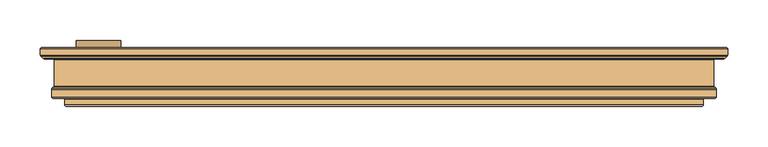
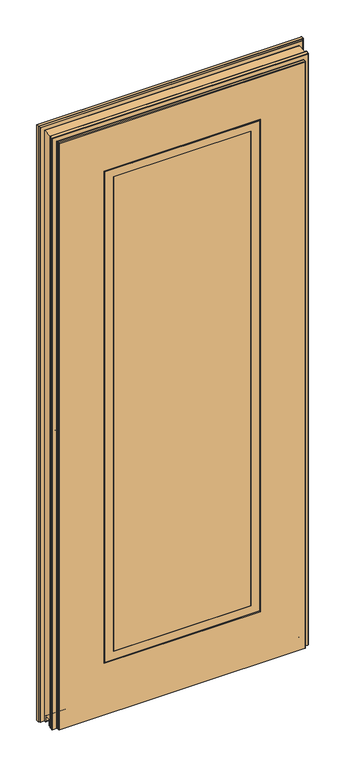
"""IFC4 building model written with IfcOpenShell, lengths in millimetres: door geometry, Peneder_HIGHLINEflat zero_1-flügelig_V2019 : Zargentyp - 07 - Stumpf FP V."""

from ifc_helpers import new_model, si_unit, frame, origin, place, context, project, spatial, polyline, circle_curve, ellipse_curve, outline, extrude, faceted_brep, source, transform, mapped, element, save
from ifc_brep_helpers import plane_surface, cylinder_surface, revolved_surface, advanced_brep


def door_935f460a(model_context):
    return source(origin(), model_context, "Body", "SolidModel", [
        advanced_brep(
        [(-325.5, 84.0, 1050.0), (-325.5, 75.0, 1050.0), (-380.5, 75.0, 1050.0), (-380.5, 84.0, 1050.0), (-353.0, 84.0, 1050.0), (-353.0, 75.0, 1050.0)],
        [
            (0, 1),
            (1, 2, circle_curve(frame((-353.0, 75.0, 1050.0), z_axis=(0.0, 1.0, 0.0), x_axis=(-1.0, 0.0, 0.0)), 27.5)),
            (2, 3),
            (3, 0, circle_curve(frame((-353.0, 84.0, 1050.0), z_axis=(0.0, -1.0, 0.0), x_axis=(-1.0, 0.0, 0.0)), 27.5)),
            (2, 1, circle_curve(frame((-353.0, 75.0, 1050.0), z_axis=(0.0, 1.0, 0.0), x_axis=(-1.0, 0.0, 0.0)), 27.5)),
            (0, 3, circle_curve(frame((-353.0, 84.0, 1050.0), z_axis=(0.0, -1.0, 0.0), x_axis=(-1.0, 0.0, 0.0)), 27.5)),
            (4, 0),
            (3, 4),
            (1, 5),
            (5, 2),
        ],
        [
            cylinder_surface(frame((-353.0, 57.2392865, 1050.0), z_axis=(0.0, 1.0, 0.0), x_axis=(-1.0, 0.0, 0.0)), 27.5),
            plane_surface(frame((-353.0, 84.0, 1050.0), z_axis=(0.0, 1.0, 0.0), x_axis=(-1.0, 0.0, 0.0))),
            plane_surface(frame((-353.0, 75.0, 1050.0), z_axis=(0.0, -1.0, 0.0), x_axis=(-1.0, 0.0, 0.0))),
        ],
        [
            (0, [[1, 2, 3, 4]]),
            (0, [[-3, 5, -1, 6]]),
            (1, [[7, -4, 8]]),
            (1, [[-8, -6, -7]]),
            (2, [[9, 10, -2]]),
            (2, [[-10, -9, -5]]),
        ],
    ),
        advanced_brep(
        [(-325.5, 84.0, 958.0), (-325.5, 75.0, 958.0), (-380.5, 75.0, 958.0), (-380.5, 84.0, 958.0), (-358.0, 84.0, 958.0), (-358.0, 84.0, 945.8645067), (-348.0, 84.0, 945.8645067), (-348.0, 84.0, 958.0), (-348.0, 84.0, 960.8645067), (-358.0, 84.0, 960.8645067), (-353.0, 75.0, 958.0), (-358.0, 78.0, 945.8645067), (-358.0, 78.0, 960.8645067), (-348.0, 78.0, 960.8645067), (-348.0, 78.0, 945.8645067)],
        [
            (0, 1),
            (1, 2, circle_curve(frame((-353.0, 75.0, 958.0), z_axis=(0.0, 1.0, 0.0), x_axis=(-1.0, 0.0, 0.0)), 27.5)),
            (2, 3),
            (3, 0, circle_curve(frame((-353.0, 84.0, 958.0), z_axis=(0.0, -1.0, 0.0), x_axis=(-1.0, 0.0, 0.0)), 27.5)),
            (2, 1, circle_curve(frame((-353.0, 75.0, 958.0), z_axis=(0.0, 1.0, 0.0), x_axis=(-1.0, 0.0, 0.0)), 27.5)),
            (0, 3, circle_curve(frame((-353.0, 84.0, 958.0), z_axis=(0.0, -1.0, 0.0), x_axis=(-1.0, 0.0, 0.0)), 27.5)),
            (3, 4),
            (4, 5),
            (5, 6, circle_curve(frame((-353.0, 84.0, 945.8645067), z_axis=(0.0, -1.0, 0.0), x_axis=(-1.0, 0.0, 0.0)), 5.0)),
            (6, 7),
            (7, 0),
            (7, 8),
            (8, 9, circle_curve(frame((-353.0, 84.0, 967.690169), z_axis=(0.0, -1.0, 0.0), x_axis=(-1.0, 0.0, 0.0)), 8.4610677)),
            (9, 4),
            (1, 10),
            (10, 2),
            (11, 12),
            (12, 13, circle_curve(frame((-353.0, 78.0, 967.690169), z_axis=(0.0, 1.0, 0.0), x_axis=(-1.0, 0.0, 0.0)), 8.4610677)),
            (13, 14),
            (14, 11, circle_curve(frame((-353.0, 78.0, 945.8645067), z_axis=(0.0, 1.0, 0.0), x_axis=(-1.0, 0.0, 0.0)), 5.0)),
            (14, 6),
            (5, 11),
            (13, 8),
            (12, 9),
        ],
        [
            cylinder_surface(frame((-353.0, 67.8167977, 958.0), z_axis=(0.0, 1.0, 0.0), x_axis=(-1.0, 0.0, 0.0)), 27.5),
            plane_surface(frame((-353.0, 84.0, 958.0), z_axis=(0.0, 1.0, 0.0), x_axis=(-1.0, 0.0, 0.0))),
            plane_surface(frame((-353.0, 75.0, 958.0), z_axis=(0.0, -1.0, 0.0), x_axis=(-1.0, 0.0, 0.0))),
            plane_surface(frame((-358.0, 78.0, 960.8645067), z_axis=(0.0, 1.0, 0.0), x_axis=(0.0, 0.0, 1.0))),
            revolved_surface(polyline([(-358.0, 78.0, 945.8645067), (-358.0, 84.0, 945.8645067)]), (-353.0, 88.0, 945.8645067), (0.0, -1.0, 0.0)),
            plane_surface(frame((-348.0, 78.0, 960.8645067), z_axis=(-1.0, 0.0, 0.0), x_axis=(0.0, 1.0, 0.0))),
            revolved_surface(polyline([(-361.4610677, 78.0, 967.690169), (-361.4610677, 84.0, 967.690169)]), (-353.0, 88.0, 967.690169), (0.0, -1.0, 0.0)),
            plane_surface(frame((-358.0, 78.0, 945.8645067), z_axis=(1.0, 0.0, 0.0), x_axis=(0.0, 1.0, 0.0))),
        ],
        [
            (0, [[1, 2, 3, 4]]),
            (0, [[5, -1, 6, -3]]),
            (1, [[7, 8, 9, 10, 11, -4]]),
            (1, [[-11, 12, 13, 14, -7, -6]]),
            (2, [[15, 16, -2]]),
            (2, [[-16, -15, -5]]),
            (3, [[17, 18, 19, 20]]),
            (4, [[21, -9, 22, -20]]),
            (5, [[23, -12, -10, -21, -19]]),
            (6, [[24, -13, -23, -18]]),
            (7, [[-22, -8, -14, -24, -17]]),
        ],
    ),
        faceted_brep([(220.0, 2.0, 215.0), (220.0, 75.0, 215.0), (-220.0, 75.0, 215.0), (-220.0, 2.0, 215.0), (-220.0, 75.0, 1820.0), (-220.0, 2.0, 1820.0), (-247.0, 75.0, 1847.0), (247.0, 75.0, 1847.0), (247.0, 75.0, 188.0), (-247.0, 75.0, 188.0), (220.0, 75.0, 1820.0), (-247.0, 2.0, 188.0), (247.0, 2.0, 188.0), (247.0, 2.0, 1847.0), (-247.0, 2.0, 1847.0), (220.0, 2.0, 1820.0), (247.0, 5.0, 188.0), (-247.0, 5.0, 188.0), (-247.0, 5.0, 1847.0), (-250.0, 5.0, 185.0), (250.0, 5.0, 185.0), (250.0, 5.0, 1850.0), (-250.0, 5.0, 1850.0), (247.0, 5.0, 1847.0), (250.0, 72.0, 185.0), (-250.0, 72.0, 185.0), (-250.0, 72.0, 1850.0), (250.0, 72.0, 1850.0), (-247.0, 72.0, 188.0), (247.0, 72.0, 188.0), (247.0, 72.0, 1847.0), (-247.0, 72.0, 1847.0)], [[[0, 1, 2, 3]], [[3, 2, 4, 5]], [[6, 7, 8, 9], [2, 1, 10, 4]], [[11, 12, 13, 14], [5, 15, 0, 3]], [[16, 12, 11, 17]], [[17, 11, 14, 18]], [[19, 20, 21, 22], [18, 23, 16, 17]], [[24, 20, 19, 25]], [[25, 19, 22, 26]], [[26, 27, 24, 25], [28, 29, 30, 31]], [[8, 29, 28, 9]], [[9, 28, 31, 6]], [[15, 10, 1, 0]], [[23, 13, 12, 16]], [[27, 21, 20, 24]], [[7, 30, 29, 8]], [[5, 4, 10, 15]], [[18, 14, 13, 23]], [[26, 22, 21, 27]], [[6, 31, 30, 7]]]),
        extrude(outline(polyline([(220.0, 2.0), (-220.0, 2.0), (-220.0, 75.0), (220.0, 75.0), (220.0, 2.0)])), frame((0.0, 0.0, 215.0), z_axis=(0.0, 0.0, 1.0), x_axis=(1.0, 0.0, 0.0)), (0.0, 0.0, 1.0), 1605.0),
        advanced_brep(
        [(393.0, 2.0, 10.0), (-393.0, 2.0, 10.0), (-395.0, 4.0, 10.0), (-395.0, 11.0, 10.0), (-396.0, 12.0, 10.0), (-409.0, 12.0, 10.0), (-411.0, 14.0, 10.0), (-411.0, 23.1715729, 10.0), (-410.4142136, 24.5857864, 10.0), (-408.2928932, 26.7071068, 10.0), (-408.0, 27.4142136, 10.0), (-408.0, 31.5, 10.0), (408.0, 31.5, 10.0), (408.0, 27.4142136, 10.0), (408.2928932, 26.7071068, 10.0), (410.4142136, 24.5857864, 10.0), (411.0, 23.1715729, 10.0), (411.0, 14.0, 10.0), (409.0, 12.0, 10.0), (396.0, 12.0, 10.0), (395.0, 11.0, 10.0), (395.0, 4.0, 10.0), (-425.0, 65.8284271, 10.0), (-425.0, 73.0, 10.0), (-423.0, 75.0, 10.0), (423.0, 75.0, 10.0), (425.0, 73.0, 10.0), (425.0, 65.8284271, 10.0), (424.4142136, 64.4142136, 10.0), (421.5857864, 61.5857864, 10.0), (420.1715729, 61.0, 10.0), (409.0, 61.0, 10.0), (408.0, 60.0, 10.0), (408.0, 56.5, 10.0), (-408.0, 56.5, 10.0), (-408.0, 60.0, 10.0), (-409.0, 61.0, 10.0), (-420.1715729, 61.0, 10.0), (-421.5857864, 61.5857864, 10.0), (-424.4142136, 64.4142136, 10.0), (393.0, 2.0, 1993.0), (-393.0, 2.0, 1993.0), (-250.0, 2.0, 1850.0), (250.0, 2.0, 1850.0), (250.0, 2.0, 185.0), (-250.0, 2.0, 185.0), (-395.0, 4.0, 1995.0), (-395.0, 11.0, 1995.0), (-396.0, 12.0, 1996.0), (396.0, 12.0, 1996.0), (409.0, 12.0, 2009.0), (-409.0, 12.0, 2009.0), (-411.0, 14.0, 2011.0), (-411.0, 23.1715729, 2011.0), (-410.4142136, 24.5857864, 2010.4142136), (-408.2928932, 26.7071068, 2008.2928932), (-408.0, 27.4142136, 2008.0), (-408.0, 60.0, 2008.0), (-408.0, 54.5, 12.0), (-408.0, 54.5, 29.5), (-408.0, 53.5, 30.5), (-408.0, 34.5, 30.5), (-408.0, 33.5, 29.5), (-408.0, 33.5, 12.0), (408.0, 33.5, 12.0), (408.0, 60.0, 2008.0), (408.0, 27.4142136, 2008.0), (408.0, 33.5, 29.5), (408.0, 34.5, 30.5), (408.0, 53.5, 30.5), (408.0, 54.5, 29.5), (408.0, 54.5, 12.0), (408.2928932, 26.7071068, 2008.2928932), (410.4142136, 24.5857864, 2010.4142136), (411.0, 23.1715729, 2011.0), (411.0, 14.0, 2011.0), (395.0, 11.0, 1995.0), (395.0, 4.0, 1995.0), (-425.0, 65.8284271, 2025.0), (-425.0, 73.0, 2025.0), (-423.0, 75.0, 2023.0), (423.0, 75.0, 2023.0), (250.0, 75.0, 1850.0), (-250.0, 75.0, 1850.0), (-250.0, 75.0, 185.0), (250.0, 75.0, 185.0), (425.0, 73.0, 2025.0), (425.0, 65.8284271, 2025.0), (424.4142136, 64.4142136, 2024.4142136), (421.5857864, 61.5857864, 2021.5857864), (420.1715729, 61.0, 2020.1715729), (-409.0, 61.0, 2009.0), (409.0, 61.0, 2009.0), (-420.1715729, 61.0, 2020.1715729), (-421.5857864, 61.5857864, 2021.5857864), (-424.4142136, 64.4142136, 2024.4142136)],
        [
            (0, 1),
            (1, 2, circle_curve(frame((-393.0, 4.0, 10.0), z_axis=(0.0, 0.0, -1.0), x_axis=(0.0, -1.0, 0.0)), 2.0)),
            (2, 3),
            (3, 4, circle_curve(frame((-396.0, 11.0, 10.0), z_axis=(0.0, 0.0, 1.0), x_axis=(1.0, 0.0, 0.0)), 1.0)),
            (4, 5),
            (5, 6, circle_curve(frame((-409.0, 14.0, 10.0), z_axis=(0.0, 0.0, -1.0), x_axis=(0.0, -1.0, 0.0)), 2.0)),
            (6, 7),
            (7, 8, circle_curve(frame((-409.0, 23.1715729, 10.0), z_axis=(0.0, 0.0, -1.0), x_axis=(-1.0, 0.0, 0.0)), 2.0)),
            (8, 9),
            (9, 10, circle_curve(frame((-409.0, 27.4142136, 10.0), z_axis=(0.0, 0.0, 1.0), x_axis=(0.7071067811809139, -0.7071067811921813, 0.0)), 1.0)),
            (10, 11),
            (11, 12),
            (12, 13),
            (13, 14, circle_curve(frame((409.0, 27.4142136, 10.0), z_axis=(0.0, 0.0, 1.0), x_axis=(-0.707106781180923, -0.7071067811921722, 0.0)), 1.0)),
            (14, 15),
            (15, 16, circle_curve(frame((409.0, 23.1715729, 10.0), z_axis=(0.0, 0.0, -1.0), x_axis=(1.0, 0.0, 0.0)), 2.0)),
            (16, 17),
            (17, 18, circle_curve(frame((409.0, 14.0, 10.0), z_axis=(0.0, 0.0, -1.0), x_axis=(0.0, -1.0, 0.0)), 2.0)),
            (18, 19),
            (19, 20, circle_curve(frame((396.0, 11.0, 10.0), z_axis=(0.0, 0.0, 1.0), x_axis=(-1.0, 0.0, 0.0)), 1.0)),
            (20, 21),
            (21, 0, circle_curve(frame((393.0, 4.0, 10.0), z_axis=(0.0, 0.0, -1.0), x_axis=(0.0, -1.0, 0.0)), 2.0)),
            (22, 23),
            (23, 24, circle_curve(frame((-423.0, 73.0, 10.0), z_axis=(0.0, 0.0, -1.0), x_axis=(-1.0, 0.0, 0.0)), 2.0)),
            (24, 25),
            (25, 26, circle_curve(frame((423.0, 73.0, 10.0), z_axis=(0.0, 0.0, -1.0), x_axis=(1.0, 0.0, 0.0)), 2.0)),
            (26, 27),
            (27, 28, circle_curve(frame((423.0, 65.8284271, 10.0), z_axis=(0.0, 0.0, -1.0), x_axis=(0.7071067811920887, -0.7071067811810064, 0.0)), 2.0)),
            (28, 29),
            (29, 30, circle_curve(frame((420.1715729, 63.0, 10.0), z_axis=(0.0, 0.0, -1.0), x_axis=(0.0, -1.0, 0.0)), 2.0)),
            (30, 31),
            (31, 32, circle_curve(frame((409.0, 60.0, 10.0), z_axis=(0.0, 0.0, 1.0), x_axis=(-1.0, 0.0, 0.0)), 1.0)),
            (32, 33),
            (33, 34),
            (34, 35),
            (35, 36, circle_curve(frame((-409.0, 60.0, 10.0), z_axis=(0.0, 0.0, 1.0), x_axis=(1.0, 0.0, 0.0)), 1.0)),
            (36, 37),
            (37, 38, circle_curve(frame((-420.1715729, 63.0, 10.0), z_axis=(0.0, 0.0, -1.0), x_axis=(0.0, -1.0, 0.0)), 2.0)),
            (38, 39),
            (39, 22, circle_curve(frame((-423.0, 65.8284271, 10.0), z_axis=(0.0, 0.0, -1.0), x_axis=(-0.7071067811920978, -0.7071067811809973, 0.0)), 2.0)),
            (0, 40),
            (40, 41),
            (41, 1),
            (42, 43),
            (43, 44),
            (44, 45),
            (45, 42),
            (41, 46, ellipse_curve(frame((-393.0, 4.0, 1993.0), z_axis=(-0.7071067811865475, 0.0, -0.7071067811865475), x_axis=(-0.7071067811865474, 0.0, 0.7071067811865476)), 2.8284271, 2.0)),
            (46, 2),
            (46, 47),
            (47, 3),
            (47, 48, ellipse_curve(frame((-396.0, 11.0, 1996.0), z_axis=(0.7071067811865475, 0.0, 0.7071067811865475), x_axis=(0.7071067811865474, 0.0, -0.7071067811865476)), 1.4142136, 1.0)),
            (48, 4),
            (48, 49),
            (49, 19),
            (18, 50),
            (50, 51),
            (51, 5),
            (51, 52, ellipse_curve(frame((-409.0, 14.0, 2009.0), z_axis=(-0.7071067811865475, 0.0, -0.7071067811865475), x_axis=(-0.7071067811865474, 0.0, 0.7071067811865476)), 2.8284271, 2.0)),
            (52, 6),
            (52, 53),
            (53, 7),
            (53, 54, ellipse_curve(frame((-409.0, 23.1715729, 2009.0), z_axis=(-0.7071067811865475, 0.0, -0.7071067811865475), x_axis=(-0.7071067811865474, 0.0, 0.7071067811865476)), 2.8284271, 2.0)),
            (54, 8),
            (54, 55),
            (55, 9),
            (55, 56, ellipse_curve(frame((-409.0, 27.4142136, 2009.0), z_axis=(0.7071067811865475, 0.0, 0.7071067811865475), x_axis=(0.7071067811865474, 0.0, -0.7071067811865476)), 1.4142136, 1.0)),
            (56, 10),
            (56, 57),
            (57, 35),
            (34, 58, circle_curve(frame((-408.0, 56.5, 12.0), z_axis=(-1.0, 0.0, 0.0), x_axis=(0.0, 1.0, 0.0)), 2.0)),
            (58, 59),
            (59, 60, circle_curve(frame((-408.0, 53.5, 29.5), z_axis=(1.0, 0.0, 0.0), x_axis=(0.0, 1.0, 0.0)), 1.0)),
            (60, 61),
            (61, 62, circle_curve(frame((-408.0, 34.5, 29.5), z_axis=(1.0, 0.0, 0.0), x_axis=(0.0, 1.0, 0.0)), 1.0)),
            (62, 63),
            (63, 11, circle_curve(frame((-408.0, 31.5, 12.0), z_axis=(-1.0, 0.0, 0.0), x_axis=(0.0, 1.0, 0.0)), 2.0)),
            (63, 64),
            (64, 12, circle_curve(frame((408.0, 31.5, 12.0), z_axis=(-1.0, 0.0, 0.0), x_axis=(0.0, 1.0, 0.0)), 2.0)),
            (65, 66),
            (66, 13),
            (64, 67),
            (67, 68, circle_curve(frame((408.0, 34.5, 29.5), z_axis=(-1.0, 0.0, 0.0), x_axis=(0.0, 1.0, 0.0)), 1.0)),
            (68, 69),
            (69, 70, circle_curve(frame((408.0, 53.5, 29.5), z_axis=(-1.0, 0.0, 0.0), x_axis=(0.0, 1.0, 0.0)), 1.0)),
            (70, 71),
            (71, 33, circle_curve(frame((408.0, 56.5, 12.0), z_axis=(1.0, 0.0, 0.0), x_axis=(0.0, 1.0, 0.0)), 2.0)),
            (32, 65),
            (66, 72, ellipse_curve(frame((409.0, 27.4142136, 2009.0), z_axis=(-0.7071067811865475, 0.0, 0.7071067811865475), x_axis=(0.7071067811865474, 0.0, 0.7071067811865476)), 1.4142136, 1.0)),
            (72, 14),
            (72, 73),
            (73, 15),
            (73, 74, ellipse_curve(frame((409.0, 23.1715729, 2009.0), z_axis=(0.7071067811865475, 0.0, -0.7071067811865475), x_axis=(-0.7071067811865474, 0.0, -0.7071067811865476)), 2.8284271, 2.0)),
            (74, 16),
            (74, 75),
            (75, 17),
            (75, 50, ellipse_curve(frame((409.0, 14.0, 2009.0), z_axis=(0.7071067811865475, 0.0, -0.7071067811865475), x_axis=(-0.7071067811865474, 0.0, -0.7071067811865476)), 2.8284271, 2.0)),
            (49, 76, ellipse_curve(frame((396.0, 11.0, 1996.0), z_axis=(-0.7071067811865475, 0.0, 0.7071067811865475), x_axis=(0.7071067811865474, 0.0, 0.7071067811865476)), 1.4142136, 1.0)),
            (76, 20),
            (76, 77),
            (77, 21),
            (77, 40, ellipse_curve(frame((393.0, 4.0, 1993.0), z_axis=(0.7071067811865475, 0.0, -0.7071067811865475), x_axis=(-0.7071067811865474, 0.0, -0.7071067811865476)), 2.8284271, 2.0)),
            (78, 79),
            (79, 23),
            (22, 78),
            (79, 80, ellipse_curve(frame((-423.0, 73.0, 2023.0), z_axis=(-0.7071067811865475, 0.0, -0.7071067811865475), x_axis=(-0.7071067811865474, 0.0, 0.7071067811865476)), 2.8284271, 2.0)),
            (80, 24),
            (80, 81),
            (81, 25),
            (82, 83),
            (83, 84),
            (84, 85),
            (85, 82),
            (81, 86, ellipse_curve(frame((423.0, 73.0, 2023.0), z_axis=(0.7071067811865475, 0.0, -0.7071067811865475), x_axis=(-0.7071067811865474, 0.0, -0.7071067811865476)), 2.8284271, 2.0)),
            (86, 26),
            (86, 87),
            (87, 27),
            (87, 88, ellipse_curve(frame((423.0, 65.8284271, 2023.0), z_axis=(0.7071067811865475, 0.0, -0.7071067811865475), x_axis=(-0.7071067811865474, 0.0, -0.7071067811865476)), 2.8284271, 2.0)),
            (88, 28),
            (88, 89),
            (89, 29),
            (89, 90, ellipse_curve(frame((420.1715729, 63.0, 2020.1715729), z_axis=(0.7071067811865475, 0.0, -0.7071067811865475), x_axis=(-0.7071067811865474, 0.0, -0.7071067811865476)), 2.8284271, 2.0)),
            (90, 30),
            (91, 92),
            (92, 31),
            (90, 93),
            (93, 37),
            (36, 91),
            (92, 65, ellipse_curve(frame((409.0, 60.0, 2009.0), z_axis=(-0.7071067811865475, 0.0, 0.7071067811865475), x_axis=(0.7071067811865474, 0.0, 0.7071067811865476)), 1.4142136, 1.0)),
            (71, 58),
            (57, 91, ellipse_curve(frame((-409.0, 60.0, 2009.0), z_axis=(0.7071067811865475, 0.0, 0.7071067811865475), x_axis=(0.7071067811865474, 0.0, -0.7071067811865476)), 1.4142136, 1.0)),
            (93, 94, ellipse_curve(frame((-420.1715729, 63.0, 2020.1715729), z_axis=(-0.7071067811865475, 0.0, -0.7071067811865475), x_axis=(-0.7071067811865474, 0.0, 0.7071067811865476)), 2.8284271, 2.0)),
            (94, 38),
            (94, 95),
            (95, 39),
            (95, 78, ellipse_curve(frame((-423.0, 65.8284271, 2023.0), z_axis=(-0.7071067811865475, 0.0, -0.7071067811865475), x_axis=(-0.7071067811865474, 0.0, 0.7071067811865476)), 2.8284271, 2.0)),
            (70, 59),
            (69, 60),
            (68, 61),
            (67, 62),
            (86, 79),
            (78, 87),
            (77, 46),
            (95, 88),
            (94, 89),
            (57, 65),
            (56, 66),
            (55, 72),
            (54, 73),
            (53, 74),
            (52, 75),
            (47, 76),
            (43, 82),
            (85, 44),
            (84, 45),
            (83, 42),
        ],
        [
            plane_surface(frame((425.0, 2.0, 10.0), z_axis=(0.0, 0.0, -1.0), x_axis=(-1.0, 0.0, 0.0))),
            plane_surface(frame((-425.0, 2.0, 2025.0), z_axis=(0.0, -1.0, 0.0), x_axis=(0.0, 0.0, -1.0))),
            cylinder_surface(frame((-393.0, 4.0, 0.0), z_axis=(0.0, 0.0, 1.0), x_axis=(0.0, -1.0, 0.0)), 2.0),
            plane_surface(frame((-395.0, 11.0, 0.0), z_axis=(-1.0, 0.0, 0.0), x_axis=(0.0, 0.0, 1.0))),
            revolved_surface(polyline([(-395.0, 11.0, 10.0), (-395.0, 11.0, 1997.0000000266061)]), (-396.0, 11.0, 0.0), (0.0, 0.0, -1.0)),
            plane_surface(frame((-409.0, 12.0, 0.0), z_axis=(0.0, -1.0, 0.0), x_axis=(0.0, 0.0, 1.0))),
            cylinder_surface(frame((-409.0, 14.0, 0.0), z_axis=(0.0, 0.0, 1.0), x_axis=(0.0, -1.0, 0.0)), 2.0),
            plane_surface(frame((-411.0, 23.1715729, 0.0), z_axis=(-1.0, 0.0, 0.0), x_axis=(0.0, 0.0, 1.0))),
            cylinder_surface(frame((-409.0, 23.1715729, 0.0), z_axis=(0.0, 0.0, 1.0), x_axis=(-1.0, 0.0, 0.0)), 2.0),
            plane_surface(frame((-408.2928932, 26.7071068, 0.0), z_axis=(-0.7071067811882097, 0.7071067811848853, 0.0), x_axis=(0.0, 0.0, 1.0))),
            revolved_surface(polyline([(-408.2928932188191, 26.70710681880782, 10.0), (-408.2928932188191, 26.70710681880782, 2010.0000000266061)]), (-409.0, 27.4142136, 0.0), (0.0, 0.0, -1.0)),
            plane_surface(frame((-408.0, 60.0, 0.0), z_axis=(-1.0, 0.0, 0.0), x_axis=(0.0, 0.0, 1.0))),
            cylinder_surface(frame((425.0, 31.5, 12.0), z_axis=(-1.0, 0.0, 0.0), x_axis=(0.0, 1.0, 0.0)), 2.0),
            plane_surface(frame((408.0, 60.0, 2008.0), z_axis=(1.0, 0.0, 0.0), x_axis=(0.0, 0.0, -1.0))),
            revolved_surface(polyline([(408.2928932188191, 26.707106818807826, 2010.0000000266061), (408.2928932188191, 26.707106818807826, 9.99999999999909)]), (409.0, 27.4142136, 2025.0), (0.0, 0.0, 1.0000000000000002)),
            plane_surface(frame((408.2928932, 26.7071068, 2008.2928932), z_axis=(0.7071067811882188, 0.7071067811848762, 0.0), x_axis=(0.0, 0.0, -1.0))),
            cylinder_surface(frame((409.0, 23.1715729, 2025.0), z_axis=(0.0, 0.0, -1.0), x_axis=(1.0, 0.0, 0.0)), 2.0),
            plane_surface(frame((411.0, 23.1715729, 2011.0), z_axis=(1.0, 0.0, 0.0), x_axis=(0.0, 0.0, -1.0))),
            cylinder_surface(frame((409.0, 14.0, 2025.0), z_axis=(0.0, 0.0, -1.0), x_axis=(0.0, -1.0, 0.0)), 2.0),
            revolved_surface(polyline([(395.0, 11.0, 1997.0000000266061), (395.0, 11.0, 10.0)]), (396.0, 11.0, 2025.0), (0.0, 0.0, 1.0)),
            plane_surface(frame((395.0, 11.0, 1995.0), z_axis=(1.0, 0.0, 0.0), x_axis=(0.0, 0.0, -1.0))),
            cylinder_surface(frame((393.0, 4.0, 2025.0), z_axis=(0.0, 0.0, -1.0), x_axis=(0.0, -1.0, 0.0)), 2.0),
            plane_surface(frame((-425.0, 75.0, 2025.0), z_axis=(-1.0, 0.0, 0.0), x_axis=(0.0, 0.0, -1.0))),
            cylinder_surface(frame((-423.0, 73.0, 0.0), z_axis=(0.0, 0.0, 1.0), x_axis=(-1.0, 0.0, 0.0)), 2.0),
            plane_surface(frame((425.0, 75.0, 2025.0), z_axis=(0.0, 1.0, 0.0), x_axis=(0.0, 0.0, -1.0))),
            cylinder_surface(frame((423.0, 73.0, 2025.0), z_axis=(0.0, 0.0, -1.0), x_axis=(1.0, 0.0, 0.0)), 2.0),
            plane_surface(frame((425.0, 2.0, 2025.0), z_axis=(1.0, 0.0, 0.0), x_axis=(0.0, 0.0, -1.0))),
            cylinder_surface(frame((423.0, 65.8284271, 2025.0), z_axis=(0.0, 0.0, -1.0), x_axis=(0.7071067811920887, -0.7071067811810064, 0.0)), 2.0),
            plane_surface(frame((424.4142136, 64.4142136, 2024.4142136), z_axis=(0.7071067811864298, -0.7071067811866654, 0.0), x_axis=(0.0, 0.0, -1.0))),
            cylinder_surface(frame((420.1715729, 63.0, 2025.0), z_axis=(0.0, 0.0, -1.0), x_axis=(0.0, -1.0, 0.0)), 2.0),
            plane_surface(frame((-420.1715729, 61.0, 0.0), z_axis=(0.0, -1.0, 0.0), x_axis=(0.0, 0.0, 1.0))),
            revolved_surface(polyline([(408.0, 60.0, 2010.0000000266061), (408.0, 60.0, 10.0)]), (409.0, 60.0, 2025.0), (0.0, 0.0, 1.0)),
            cylinder_surface(frame((425.0, 56.5, 12.0), z_axis=(-1.0, 0.0, 0.0), x_axis=(0.0, 1.0, 0.0)), 2.0),
            revolved_surface(polyline([(-408.0, 60.0, 10.0), (-408.0, 60.0, 2010.0000000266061)]), (-409.0, 60.0, 0.0), (0.0, 0.0, -1.0)),
            cylinder_surface(frame((-420.1715729, 63.0, 0.0), z_axis=(0.0, 0.0, 1.0), x_axis=(0.0, -1.0, 0.0)), 2.0),
            plane_surface(frame((-424.4142136, 64.4142136, 0.0), z_axis=(-0.7071067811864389, -0.7071067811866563, 0.0), x_axis=(0.0, 0.0, 1.0))),
            cylinder_surface(frame((-423.0, 65.8284271, 0.0), z_axis=(0.0, 0.0, 1.0000000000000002), x_axis=(-0.7071067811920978, -0.7071067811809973, 0.0)), 2.0),
            plane_surface(frame((425.0, 54.5, 12.0), z_axis=(0.0, -1.0, 0.0), x_axis=(-1.0, 0.0, 0.0))),
            revolved_surface(polyline([(408.0, 54.5, 29.5), (-408.0, 54.5, 29.5)]), (425.0, 53.5, 29.5), (1.0, 0.0, 0.0)),
            plane_surface(frame((425.0, 53.5, 30.5), z_axis=(0.0, 0.0, -1.0), x_axis=(-1.0, 0.0, 0.0))),
            revolved_surface(polyline([(408.0, 35.5, 29.5), (-408.0, 35.5, 29.5)]), (425.0, 34.5, 29.5), (1.0, 0.0, 0.0)),
            plane_surface(frame((425.0, 33.5, 29.5), z_axis=(0.0, 1.0, 0.0), x_axis=(-1.0, 0.0, 0.0))),
            plane_surface(frame((425.0, 2.0, 2025.0), z_axis=(0.0, 0.0, 1.0), x_axis=(1.0, 0.0, 0.0))),
            cylinder_surface(frame((-425.0, 4.0, 1993.0), z_axis=(1.0, 0.0, 0.0), x_axis=(0.0, -1.0, 0.0)), 2.0),
            cylinder_surface(frame((-425.0, 73.0, 2023.0), z_axis=(1.0, 0.0, 0.0), x_axis=(0.0, 0.0, 1.0)), 2.0),
            cylinder_surface(frame((-425.0, 65.8284271, 2023.0), z_axis=(1.0, 0.0, 0.0), x_axis=(0.0, -0.7071067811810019, 0.7071067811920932)), 2.0),
            plane_surface(frame((-424.4142136, 64.4142136, 2024.4142136), z_axis=(0.0, -0.7071067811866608, 0.7071067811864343), x_axis=(1.0, 0.0, 0.0))),
            cylinder_surface(frame((-425.0, 63.0, 2020.1715729), z_axis=(1.0, 0.0, 0.0), x_axis=(0.0, -1.0, 0.0)), 2.0),
            revolved_surface(polyline([(-410.00000002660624, 60.0, 2008.0), (410.00000002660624, 60.0, 2008.0)]), (-425.0, 60.0, 2009.0), (-1.0, 0.0, 0.0)),
            plane_surface(frame((-408.0, 60.0, 2008.0), z_axis=(0.0, 0.0, 1.0), x_axis=(1.0, 0.0, 0.0))),
            revolved_surface(polyline([(-410.00000002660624, 26.707106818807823, 2008.292893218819), (410.00000002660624, 26.707106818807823, 2008.292893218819)]), (-425.0, 27.4142136, 2009.0), (-1.0, 0.0, 0.0)),
            plane_surface(frame((-408.2928932, 26.7071068, 2008.2928932), z_axis=(0.0, 0.7071067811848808, 0.7071067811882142), x_axis=(1.0, 0.0, 0.0))),
            cylinder_surface(frame((-425.0, 23.1715729, 2009.0), z_axis=(1.0, 0.0, 0.0), x_axis=(0.0, 0.0, 1.0)), 2.0),
            plane_surface(frame((-411.0, 23.1715729, 2011.0), z_axis=(0.0, 0.0, 1.0), x_axis=(1.0, 0.0, 0.0))),
            cylinder_surface(frame((-425.0, 14.0, 2009.0), z_axis=(1.0, 0.0, 0.0), x_axis=(0.0, -1.0, 0.0)), 2.0),
            revolved_surface(polyline([(-397.00000002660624, 11.0, 1995.0), (397.00000002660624, 11.0, 1995.0)]), (-425.0, 11.0, 1996.0), (-1.0, 0.0, 0.0)),
            plane_surface(frame((-395.0, 11.0, 1995.0), z_axis=(0.0, 0.0, 1.0), x_axis=(1.0, 0.0, 0.0))),
            plane_surface(frame((250.0, -3.0, 185.0), z_axis=(-1.0, 0.0, 0.0), x_axis=(0.0, 1.0, 0.0))),
            plane_surface(frame((-250.0, -3.0, 185.0), z_axis=(0.0, 0.0, 1.0), x_axis=(0.0, 1.0, 0.0))),
            plane_surface(frame((-250.0, -3.0, 1850.0), z_axis=(1.0, 0.0, 0.0), x_axis=(0.0, 1.0, 0.0))),
            plane_surface(frame((250.0, -3.0, 1850.0), z_axis=(0.0, 0.0, -1.0), x_axis=(0.0, 1.0, 0.0))),
        ],
        [
            (0, [[1, 2, 3, 4, 5, 6, 7, 8, 9, 10, 11, 12, 13, 14, 15, 16, 17, 18, 19, 20, 21, 22]]),
            (0, [[23, 24, 25, 26, 27, 28, 29, 30, 31, 32, 33, 34, 35, 36, 37, 38, 39, 40]]),
            (1, [[-1, 41, 42, 43], [44, 45, 46, 47]]),
            (2, [[48, 49, -2, -43]]),
            (3, [[50, 51, -3, -49]]),
            (4, [[52, 53, -4, -51]]),
            (5, [[54, 55, -19, 56, 57, 58, -5, -53]]),
            (6, [[59, 60, -6, -58]]),
            (7, [[61, 62, -7, -60]]),
            (8, [[63, 64, -8, -62]]),
            (9, [[65, 66, -9, -64]]),
            (10, [[67, 68, -10, -66]]),
            (11, [[69, 70, -35, 71, 72, 73, 74, 75, 76, 77, -11, -68]]),
            (12, [[78, 79, -12, -77]]),
            (13, [[80, 81, -13, -79, 82, 83, 84, 85, 86, 87, -33, 88]]),
            (14, [[89, 90, -14, -81]]),
            (15, [[91, 92, -15, -90]]),
            (16, [[93, 94, -16, -92]]),
            (17, [[95, 96, -17, -94]]),
            (18, [[97, -56, -18, -96]]),
            (19, [[98, 99, -20, -55]]),
            (20, [[100, 101, -21, -99]]),
            (21, [[102, -41, -22, -101]]),
            (22, [[103, 104, -23, 105]]),
            (23, [[106, 107, -24, -104]]),
            (24, [[-25, -107, 108, 109], [110, 111, 112, 113]]),
            (25, [[114, 115, -26, -109]]),
            (26, [[116, 117, -27, -115]]),
            (27, [[118, 119, -28, -117]]),
            (28, [[120, 121, -29, -119]]),
            (29, [[122, 123, -30, -121]]),
            (30, [[124, 125, -31, -123, 126, 127, -37, 128]]),
            (31, [[129, -88, -32, -125]]),
            (32, [[130, -71, -34, -87]]),
            (33, [[131, -128, -36, -70]]),
            (34, [[132, 133, -38, -127]]),
            (35, [[134, 135, -39, -133]]),
            (36, [[136, -105, -40, -135]]),
            (37, [[137, -72, -130, -86]]),
            (38, [[138, -73, -137, -85]]),
            (39, [[139, -74, -138, -84]]),
            (40, [[140, -75, -139, -83]]),
            (41, [[-78, -76, -140, -82]]),
            (42, [[-116, 141, -103, 142]]),
            (43, [[-48, -42, -102, 143]]),
            (44, [[-106, -141, -114, -108]]),
            (45, [[-136, 144, -118, -142]]),
            (46, [[-134, 145, -120, -144]]),
            (47, [[-132, -126, -122, -145]]),
            (48, [[-124, -131, 146, -129]]),
            (49, [[-69, 147, -80, -146]]),
            (50, [[-67, 148, -89, -147]]),
            (51, [[-65, 149, -91, -148]]),
            (52, [[-63, 150, -93, -149]]),
            (53, [[-61, 151, -95, -150]]),
            (54, [[-59, -57, -97, -151]]),
            (55, [[-54, -52, 152, -98]]),
            (56, [[-50, -143, -100, -152]]),
            (57, [[153, -113, 154, -45]]),
            (58, [[-154, -112, 155, -46]]),
            (59, [[-155, -111, 156, -47]]),
            (60, [[-153, -44, -156, -110]]),
        ],
    ),
    ])


if __name__ == "__main__":
    model = new_model("IFC4")
    model_context = context("Model", 3, world=origin())
    ifc_project = project(units=[si_unit("LENGTHUNIT", "METRE", prefix="MILLI")], contexts=[model_context])
    site = spatial("IfcSite", under=ifc_project)
    building = spatial("IfcBuilding", under=site)
    placement = place(None, origin())
    door_shape = door_935f460a(model_context)
    element("IfcDoor", 1, ObjectType="Peneder_HIGHLINEflat zero_1-flügelig_V2019 : Zargentyp - 07 - Stumpf FP V", at=placement, inside=building, context=model_context, shape_type="MappedRepresentation", body=[
        mapped(door_shape, transform((0.0, 0.0, 0.0), x_axis=(1.0, 0.0, 0.0), y_axis=(0.0, 1.0, 0.0), z_axis=(0.0, 0.0, 1.0))),
    ])
    save(model, "model.ifc")
